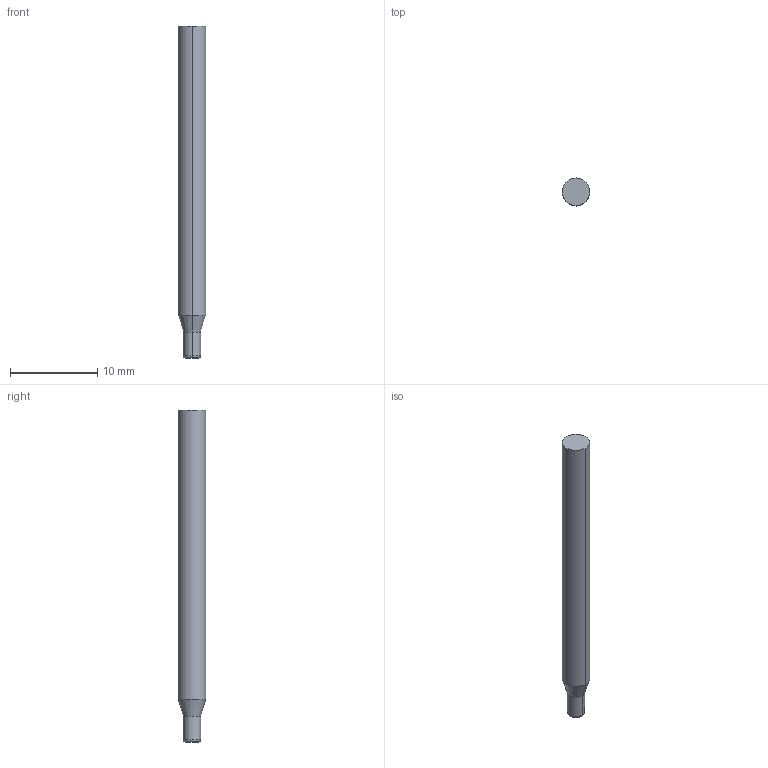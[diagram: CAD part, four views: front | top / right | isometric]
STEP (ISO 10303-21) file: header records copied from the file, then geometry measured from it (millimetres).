
FILE_DESCRIPTION((' '),'2;1');
FILE_NAME( '3MVS0781R.010AH.stp', '2026-01-21T19:08:53', (' '), ('--- Datakit www.datakit.com---'), ' Datakit CrossCadWare V2025.4 Sep 19 2025', 'Mastercam 2027', ' ');
FILE_SCHEMA(('AUTOMOTIVE_DESIGN { 1 0 10303 214 1 1 1 1 }'));
Length unit declared in the file: inch
Products named in the file (1): 3MVS0781R
Bounding box: 3.17 x 3.17 x 38.1 mm (x, y, z)
Volume: 282.2 mm3; surface area: 376.3 mm2
Topology: 1 solids, 1 shells, 10 faces, 18 edges, 10 vertices
Faces by surface type: cylinder 4, plane 2, torus 2, cone 2
Entity records: 318 total; most frequent: DIRECTION 60, CARTESIAN_POINT 43, ORIENTED_EDGE 36, AXIS2_PLACEMENT_3D 27, EDGE_CURVE 18, CIRCLE 12, VERTEX_POINT 10, EDGE_LOOP 10
